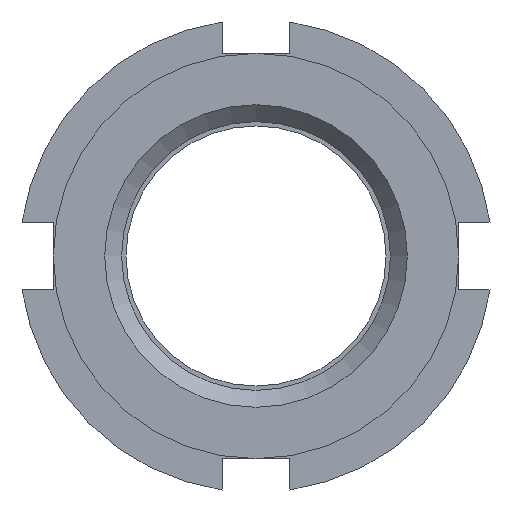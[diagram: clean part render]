
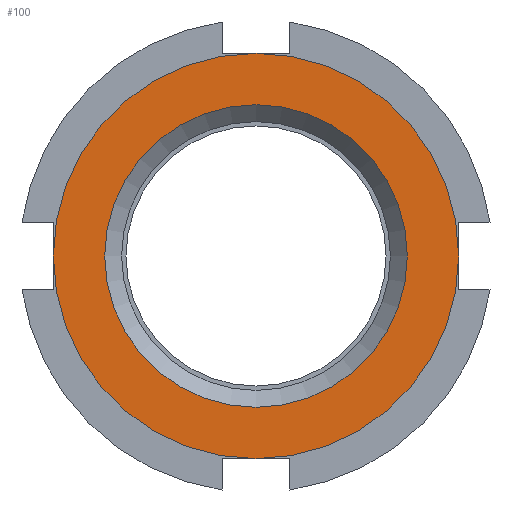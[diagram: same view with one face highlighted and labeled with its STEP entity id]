
A CAD part, left-side view. The second image highlights one B-rep face of the part: STEP entity #100.
In plain terms, the highlighted planar face has unit normal (-1, 0, 0).
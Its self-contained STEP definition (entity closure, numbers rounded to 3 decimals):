
#100 = ADVANCED_FACE( '', ( #166, #167 ), #168, .F. );
#166 = FACE_OUTER_BOUND( '', #244, .T. );
#167 = FACE_BOUND( '', #245, .T. );
#168 = PLANE( '', #246 );
#244 = EDGE_LOOP( '', ( #457 ) );
#245 = EDGE_LOOP( '', ( #458 ) );
#246 = AXIS2_PLACEMENT_3D( '', #459, #460, #461 );
#457 = ORIENTED_EDGE( '', *, *, #570, .F. );
#458 = ORIENTED_EDGE( '', *, *, #549, .T. );
#459 = CARTESIAN_POINT( '', ( 0., 0., 0. ) );
#460 = DIRECTION( '', ( 1., 0., 0. ) );
#461 = DIRECTION( '', ( 0., 0., -1. ) );
#549 = EDGE_CURVE( '', #654, #654, #655, .T. );
#570 = EDGE_CURVE( '', #683, #683, #684, .T. );
#654 = VERTEX_POINT( '', #827 );
#655 = CIRCLE( '', #828, 8.959 );
#683 = VERTEX_POINT( '', #867 );
#684 = CIRCLE( '', #868, 12. );
#827 = CARTESIAN_POINT( '', ( 0., 0., -8.959 ) );
#828 = AXIS2_PLACEMENT_3D( '', #944, #945, #946 );
#867 = CARTESIAN_POINT( '', ( 0., 0., -12. ) );
#868 = AXIS2_PLACEMENT_3D( '', #991, #992, #993 );
#944 = CARTESIAN_POINT( '', ( 0., 0., 0. ) );
#945 = DIRECTION( '', ( 1., 0., 0. ) );
#946 = DIRECTION( '', ( 0., 0., -1. ) );
#991 = CARTESIAN_POINT( '', ( 0., 0., 0. ) );
#992 = DIRECTION( '', ( 1., 0., 0. ) );
#993 = DIRECTION( '', ( 0., 0., -1. ) );
